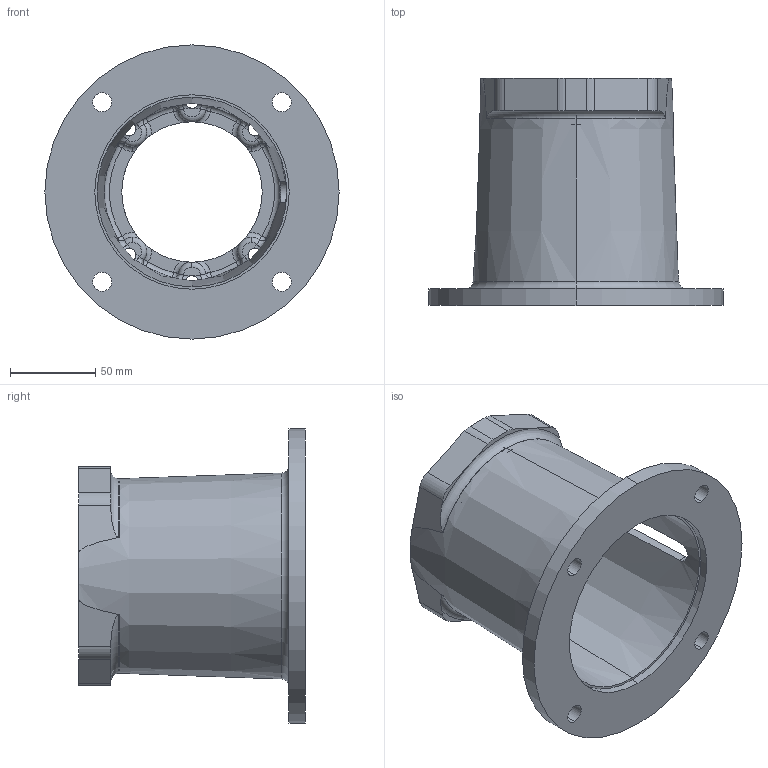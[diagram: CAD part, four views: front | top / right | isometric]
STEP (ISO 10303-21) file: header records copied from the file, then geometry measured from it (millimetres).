
FILE_DESCRIPTION (( 'STEP AP203' ), '1' );
FILE_NAME ('M056522A.STEP', '2007-12-21T20:26:44', ( 'Chris McCoy' ), ( 'Magnaloy Coupling Co' ), 'SwSTEP 2.0', 'SolidWorks 2007', '' );
FILE_SCHEMA (( 'CONFIG_CONTROL_DESIGN' ));
Length unit declared in the file: inch
Products named in the file (1): M056522A
Bounding box: 172.97 x 133.35 x 172.97 mm (x, y, z)
Volume: 397881.7 mm3; surface area: 133527.2 mm2
Topology: 1 solids, 1 shells, 193 faces, 520 edges, 309 vertices
Faces by surface type: torus 52, cylinder 43, plane 30, sphere 24, bspline 24, cone 20
Entity records: 8486 total; most frequent: CARTESIAN_POINT 3732, DIRECTION 1013, ORIENTED_EDGE 1008, EDGE_CURVE 504, AXIS2_PLACEMENT_3D 468, VERTEX_POINT 309, CIRCLE 298, EDGE_LOOP 213
